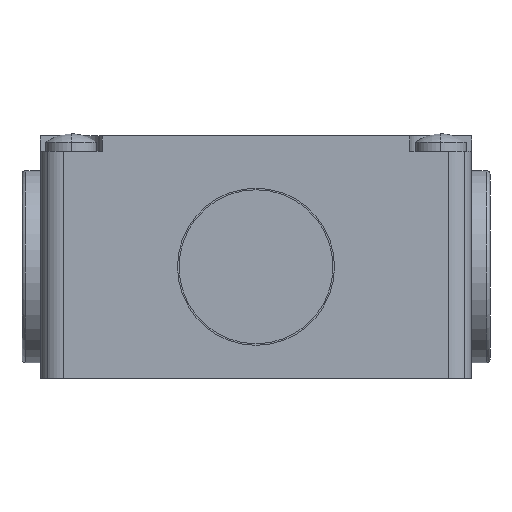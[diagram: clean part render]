
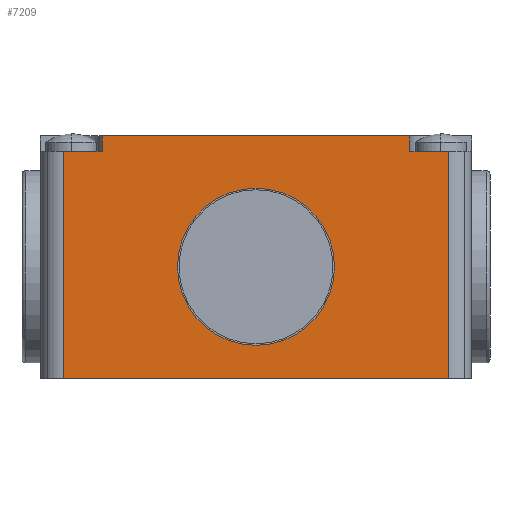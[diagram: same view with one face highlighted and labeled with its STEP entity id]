
A CAD part, front view. The second image highlights one B-rep face of the part: STEP entity #7209.
In plain terms, the highlighted planar face has unit normal (0, -1, 0).
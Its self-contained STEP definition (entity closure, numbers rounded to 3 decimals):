
#391 = VERTEX_POINT ( 'NONE', #1435 ) ;
#458 = CARTESIAN_POINT ( 'NONE',  ( 25., -56.8, -14.5 ) ) ;
#501 = EDGE_LOOP ( 'NONE', ( #6404, #4636, #6338, #1064, #8985, #3696, #14724, #3843 ) ) ;
#587 = VERTEX_POINT ( 'NONE', #458 ) ;
#1064 = ORIENTED_EDGE ( 'NONE', *, *, #11017, .T. ) ;
#1082 = PLANE ( 'NONE',  #3800 ) ;
#1207 = VERTEX_POINT ( 'NONE', #7834 ) ;
#1435 = CARTESIAN_POINT ( 'NONE',  ( -20., -56.8, 17. ) ) ;
#1450 = VERTEX_POINT ( 'NONE', #16770 ) ;
#2178 = CIRCLE ( 'NONE', #6310, 10.2 ) ;
#2483 = ORIENTED_EDGE ( 'NONE', *, *, #2775, .F. ) ;
#2555 = EDGE_LOOP ( 'NONE', ( #12584, #2483 ) ) ;
#2775 = EDGE_CURVE ( 'NONE', #3890, #10471, #2178, .T. ) ;
#2782 = CARTESIAN_POINT ( 'NONE',  ( -25., -56.8, 17. ) ) ;
#2892 = VERTEX_POINT ( 'NONE', #5685 ) ;
#3007 = CARTESIAN_POINT ( 'NONE',  ( 25., -56.8, -14.5 ) ) ;
#3355 = VECTOR ( 'NONE', #13217, 1000. ) ;
#3405 = LINE ( 'NONE', #9365, #9995 ) ;
#3696 = ORIENTED_EDGE ( 'NONE', *, *, #12543, .F. ) ;
#3799 = VECTOR ( 'NONE', #8318, 1000. ) ;
#3800 = AXIS2_PLACEMENT_3D ( 'NONE', #12901, #14205, #6390 ) ;
#3843 = ORIENTED_EDGE ( 'NONE', *, *, #11587, .F. ) ;
#3890 = VERTEX_POINT ( 'NONE', #12113 ) ;
#4519 = CARTESIAN_POINT ( 'NONE',  ( -20., -56.8, 15. ) ) ;
#4636 = ORIENTED_EDGE ( 'NONE', *, *, #16746, .T. ) ;
#4660 = DIRECTION ( 'NONE',  ( 0., 0., 1. ) ) ;
#4754 = CARTESIAN_POINT ( 'NONE',  ( 0., -56.8, 0. ) ) ;
#5508 = CARTESIAN_POINT ( 'NONE',  ( 28., -56.8, 15. ) ) ;
#5685 = CARTESIAN_POINT ( 'NONE',  ( -20., -56.8, 15. ) ) ;
#5734 = DIRECTION ( 'NONE',  ( 1., 0., 0. ) ) ;
#5751 = CARTESIAN_POINT ( 'NONE',  ( 20., -56.8, 17. ) ) ;
#5876 = VECTOR ( 'NONE', #9427, 1000. ) ;
#6049 = FACE_OUTER_BOUND ( 'NONE', #501, .T. ) ;
#6078 = DIRECTION ( 'NONE',  ( 0., 0., -1. ) ) ;
#6310 = AXIS2_PLACEMENT_3D ( 'NONE', #6663, #15798, #8008 ) ;
#6338 = ORIENTED_EDGE ( 'NONE', *, *, #11977, .T. ) ;
#6390 = DIRECTION ( 'NONE',  ( 0., 0., -1. ) ) ;
#6404 = ORIENTED_EDGE ( 'NONE', *, *, #7790, .T. ) ;
#6663 = CARTESIAN_POINT ( 'NONE',  ( 0., -56.8, 0. ) ) ;
#7209 = ADVANCED_FACE ( 'NONE', ( #9956, #6049 ), #1082, .T. ) ;
#7790 = EDGE_CURVE ( 'NONE', #9190, #587, #16044, .T. ) ;
#7834 = CARTESIAN_POINT ( 'NONE',  ( 25., -56.8, 15. ) ) ;
#8008 = DIRECTION ( 'NONE',  ( 0., 0., -1. ) ) ;
#8221 = AXIS2_PLACEMENT_3D ( 'NONE', #4754, #13899, #6078 ) ;
#8318 = DIRECTION ( 'NONE',  ( 0., 0., 1. ) ) ;
#8586 = CARTESIAN_POINT ( 'NONE',  ( -25., -56.8, -14.5 ) ) ;
#8695 = VERTEX_POINT ( 'NONE', #5751 ) ;
#8727 = DIRECTION ( 'NONE',  ( 1., 0., 0. ) ) ;
#8985 = ORIENTED_EDGE ( 'NONE', *, *, #12645, .F. ) ;
#9190 = VERTEX_POINT ( 'NONE', #14629 ) ;
#9365 = CARTESIAN_POINT ( 'NONE',  ( 20., -56.8, 15. ) ) ;
#9427 = DIRECTION ( 'NONE',  ( -1., 0., 0. ) ) ;
#9497 = EDGE_CURVE ( 'NONE', #1450, #2892, #13348, .T. ) ;
#9585 = VECTOR ( 'NONE', #4660, 1000. ) ;
#9815 = DIRECTION ( 'NONE',  ( 0., 0., 1. ) ) ;
#9956 = FACE_BOUND ( 'NONE', #2555, .T. ) ;
#9995 = VECTOR ( 'NONE', #10600, 1000. ) ;
#10471 = VERTEX_POINT ( 'NONE', #14271 ) ;
#10600 = DIRECTION ( 'NONE',  ( 0., 0., 1. ) ) ;
#10930 = CARTESIAN_POINT ( 'NONE',  ( -25., -56.8, -14.5 ) ) ;
#11017 = EDGE_CURVE ( 'NONE', #11567, #8695, #3405, .T. ) ;
#11141 = CARTESIAN_POINT ( 'NONE',  ( 20., -56.8, 15. ) ) ;
#11216 = EDGE_CURVE ( 'NONE', #10471, #3890, #11403, .T. ) ;
#11403 = CIRCLE ( 'NONE', #8221, 10.2 ) ;
#11567 = VERTEX_POINT ( 'NONE', #11141 ) ;
#11571 = VECTOR ( 'NONE', #9815, 1000. ) ;
#11587 = EDGE_CURVE ( 'NONE', #9190, #1450, #13023, .T. ) ;
#11977 = EDGE_CURVE ( 'NONE', #1207, #11567, #15464, .T. ) ;
#12113 = CARTESIAN_POINT ( 'NONE',  ( 0., -56.8, 10.2 ) ) ;
#12543 = EDGE_CURVE ( 'NONE', #2892, #391, #15042, .T. ) ;
#12561 = VECTOR ( 'NONE', #5734, 1000. ) ;
#12584 = ORIENTED_EDGE ( 'NONE', *, *, #11216, .F. ) ;
#12645 = EDGE_CURVE ( 'NONE', #391, #8695, #14223, .T. ) ;
#12901 = CARTESIAN_POINT ( 'NONE',  ( -25., -56.8, -14.5 ) ) ;
#13023 = LINE ( 'NONE', #8586, #9585 ) ;
#13217 = DIRECTION ( 'NONE',  ( 1., 0., 0. ) ) ;
#13348 = LINE ( 'NONE', #13897, #16408 ) ;
#13897 = CARTESIAN_POINT ( 'NONE',  ( -28., -56.8, 15. ) ) ;
#13899 = DIRECTION ( 'NONE',  ( 0., -1., 0. ) ) ;
#14205 = DIRECTION ( 'NONE',  ( 0., -1., 0. ) ) ;
#14223 = LINE ( 'NONE', #2782, #3355 ) ;
#14271 = CARTESIAN_POINT ( 'NONE',  ( 0., -56.8, -10.2 ) ) ;
#14629 = CARTESIAN_POINT ( 'NONE',  ( -25., -56.8, -14.5 ) ) ;
#14665 = LINE ( 'NONE', #3007, #3799 ) ;
#14724 = ORIENTED_EDGE ( 'NONE', *, *, #9497, .F. ) ;
#15042 = LINE ( 'NONE', #4519, #11571 ) ;
#15464 = LINE ( 'NONE', #5508, #5876 ) ;
#15798 = DIRECTION ( 'NONE',  ( 0., -1., 0. ) ) ;
#16044 = LINE ( 'NONE', #10930, #12561 ) ;
#16408 = VECTOR ( 'NONE', #8727, 1000. ) ;
#16746 = EDGE_CURVE ( 'NONE', #587, #1207, #14665, .T. ) ;
#16770 = CARTESIAN_POINT ( 'NONE',  ( -25., -56.8, 15. ) ) ;
